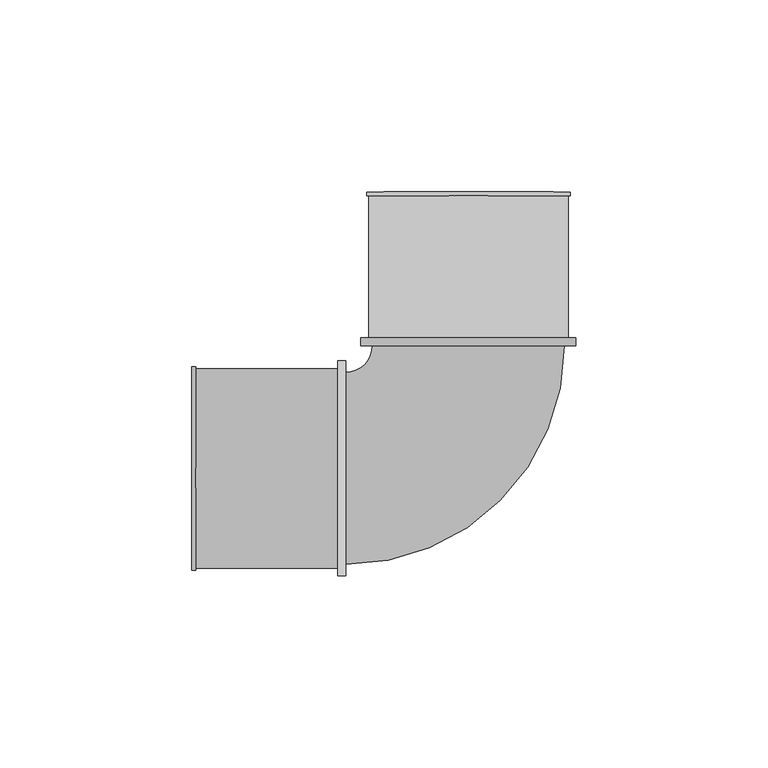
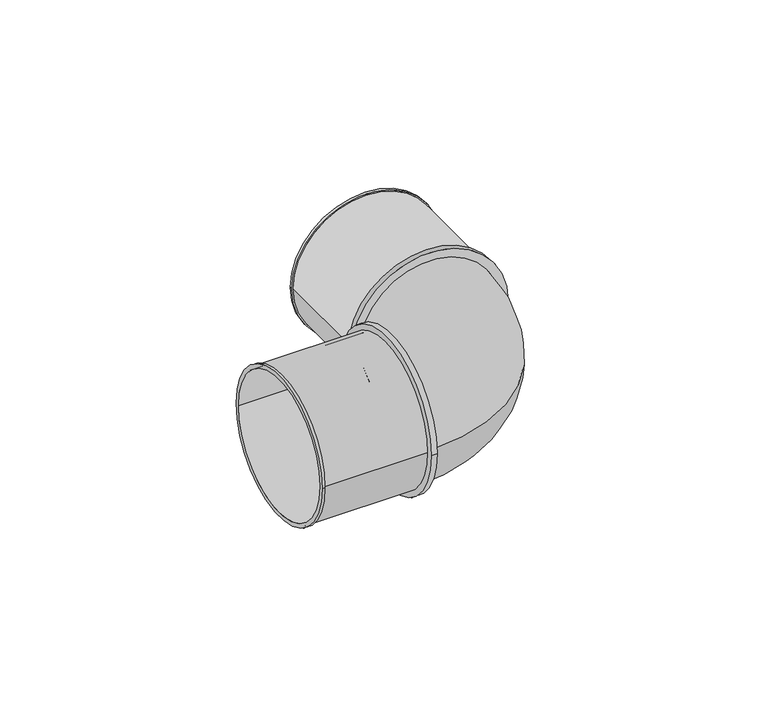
"""IFC4 building model written with IfcOpenShell, lengths in millimetres: pipe fitting geometry, SuperPipe_Elbow_SPressPlus : SuperPipe_Elbow_SPressPlus."""

import ifcopenshell
import ifcopenshell.guid

model = None  # the IFC model being written
_history = None  # IfcOwnerHistory: only IFC2X3 demands one
_inside = {}  # id of a spatial element -> (the spatial element, [elements in it])
_under = {}  # id of a project, library or spatial element -> (it, [spatial elements below it])
_declared = {}  # id of a project -> (the project, [libraries it declares])
_typed = {}  # id of a type object -> (the type object, [elements of that type])
_made_of = {}  # id of a material, layer set ... -> (it, [elements and type objects made of it])


def new_model(schema):
    """Start an empty IFC model of exactly this schema.

    Asked for "IFC4X3", IfcOpenShell would pick the latest addendum, in which some entities
    have other attributes; the version numbers below select the first issue.
    IFC2X3 requires an IfcOwnerHistory on every rooted entity: one is made here for all.
    """
    global model, _history
    if schema == "IFC4X3":
        model = ifcopenshell.file(schema_version=(4, 3, 0, 0))
    else:
        model = ifcopenshell.file(schema=schema)
    _inside.clear()
    _under.clear()
    _declared.clear()
    _typed.clear()
    _made_of.clear()
    _history = None
    if model.schema == "IFC2X3":
        org = make("IfcOrganization", Name="unknown")
        user = make(
            "IfcPersonAndOrganization",
            ThePerson=make("IfcPerson", FamilyName="unknown"),
            TheOrganization=org,
        )
        app = make(
            "IfcApplication",
            ApplicationDeveloper=org,
            Version="unknown",
            ApplicationFullName="unknown",
            ApplicationIdentifier="unknown",
        )
        _history = make(
            "IfcOwnerHistory",
            OwningUser=user,
            OwningApplication=app,
            ChangeAction="ADDED",
            CreationDate=0,
        )
    return model


def make(cls, **values):
    """One entity of the class cls with the attributes given. An attribute that is None is left unset."""
    return model.create_entity(
        cls, **{name: value for name, value in values.items() if value is not None}
    )


def rooted(cls, **values):
    """An entity with a GlobalId (a new one), such as an element, a storey or a relation."""
    return make(cls, GlobalId=ifcopenshell.guid.new(), OwnerHistory=_history, **values)


def si_unit(unit_type, name, prefix=None):
    """IfcSIUnit, for example si_unit("LENGTHUNIT", "METRE", prefix="MILLI")."""
    return make("IfcSIUnit", UnitType=unit_type, Prefix=prefix, Name=name)


def assignment(units):
    """IfcUnitAssignment: the units of a project."""
    return None if units is None else make("IfcUnitAssignment", Units=units)


def point(xyz):
    """IfcCartesianPoint."""
    return None if xyz is None else make("IfcCartesianPoint", Coordinates=xyz)


def direction(xyz):
    """IfcDirection."""
    return None if xyz is None else make("IfcDirection", DirectionRatios=xyz)


def frame(location, z_axis=None, x_axis=None):
    """IfcAxis2Placement3D, a coordinate frame: its origin and axes. An axis left out is left unset."""
    return make(
        "IfcAxis2Placement3D",
        Location=point(location),
        Axis=direction(z_axis),
        RefDirection=direction(x_axis),
    )


def frame_2d(location, x_axis=None):
    """IfcAxis2Placement2D, a coordinate frame in the plane: its origin and x axis."""
    return make(
        "IfcAxis2Placement2D", Location=point(location), RefDirection=direction(x_axis)
    )


def origin():
    """The frame at (0, 0, 0) with its axes left unset."""
    return frame((0.0, 0.0, 0.0))


def origin_2d():
    """The frame at (0, 0) in the plane with its x axis left unset."""
    return frame_2d((0.0, 0.0))


def place(relative_to, where):
    """IfcLocalPlacement: puts the frame where relative to a parent placement (None: the world)."""
    return make(
        "IfcLocalPlacement", PlacementRelTo=relative_to, RelativePlacement=where
    )


def context(
    kind, dimensions, precision=None, world=None, true_north=None, identifier=None
):
    """IfcGeometricRepresentationContext, for example the 3D "Model" context."""
    return make(
        "IfcGeometricRepresentationContext",
        ContextIdentifier=identifier,
        ContextType=kind,
        CoordinateSpaceDimension=dimensions,
        Precision=precision,
        WorldCoordinateSystem=world,
        TrueNorth=true_north,
    )


def project(units=None, contexts=None):
    """IfcProject with its units and contexts."""
    return rooted(
        "IfcProject",
        Name="project",
        RepresentationContexts=contexts,
        UnitsInContext=assignment(units),
    )


def spatial(cls, under=None, at=None, **own):
    """A site, building, storey or space (cls), placed at a placement, below another one or the project."""
    s = rooted(cls, ObjectPlacement=at, **own)
    if under is not None:
        _under.setdefault(under.id(), (under, []))[1].append(s)
    return s


def polyline(points):
    """IfcPolyline through the points."""
    return make("IfcPolyline", Points=[point(p) for p in points])


def circle_curve(where, radius):
    """IfcCircle in the frame where."""
    return make("IfcCircle", Position=where, Radius=radius)


def ellipse_curve(where, semi_axis1, semi_axis2):
    """IfcEllipse in the frame where."""
    return make(
        "IfcEllipse", Position=where, SemiAxis1=semi_axis1, SemiAxis2=semi_axis2
    )


def trimmed(basis, trim1, trim2, sense, master):
    """IfcTrimmedCurve: the piece of a basis curve between two trims."""
    return make(
        "IfcTrimmedCurve",
        BasisCurve=basis,
        Trim1=trim1,
        Trim2=trim2,
        SenseAgreement=sense,
        MasterRepresentation=master,
    )


def segment(curve, same_sense, transition):
    """IfcCompositeCurveSegment."""
    return make(
        "IfcCompositeCurveSegment",
        Transition=transition,
        SameSense=same_sense,
        ParentCurve=curve,
    )


def composite_curve(segments, self_intersect=None):
    """IfcCompositeCurve: segments joined end to end."""
    return make("IfcCompositeCurve", Segments=segments, SelfIntersect=self_intersect)


def outline(outer, holes=None, kind="AREA"):
    """IfcArbitraryClosedProfileDef: a profile drawn as a closed curve; with holes, ...WithVoids."""
    if holes is None:
        return make("IfcArbitraryClosedProfileDef", ProfileType=kind, OuterCurve=outer)
    return make(
        "IfcArbitraryProfileDefWithVoids",
        ProfileType=kind,
        OuterCurve=outer,
        InnerCurves=holes,
    )


def extrude(swept, where, along, depth):
    """IfcExtrudedAreaSolid: the profile swept, set in the frame where, extruded along a direction by depth."""
    return make(
        "IfcExtrudedAreaSolid",
        SweptArea=swept,
        Position=where,
        ExtrudedDirection=direction(along),
        Depth=depth,
    )


def shape(context_of_items, identifier, shape_type, items):
    """IfcShapeRepresentation: the items that make up one representation, for example the "Body"."""
    return make(
        "IfcShapeRepresentation",
        ContextOfItems=context_of_items,
        RepresentationIdentifier=identifier,
        RepresentationType=shape_type,
        Items=items,
    )


def source(mapping_origin, context_of_items, identifier, shape_type, items):
    """IfcRepresentationMap: a shape defined once, which mapped items show again and again."""
    return make(
        "IfcRepresentationMap",
        MappingOrigin=mapping_origin,
        MappedRepresentation=shape(context_of_items, identifier, shape_type, items),
    )


def transform(
    local_origin,
    x_axis=None,
    y_axis=None,
    z_axis=None,
    scale=None,
    scale2=None,
    scale3=None,
    uniform=True,
):
    """IfcCartesianTransformationOperator3D, or its non-uniform kind. x_axis, y_axis, z_axis: its Axis1, 2, 3."""
    if uniform:
        return make(
            "IfcCartesianTransformationOperator3D",
            Axis1=direction(x_axis),
            Axis2=direction(y_axis),
            LocalOrigin=point(local_origin),
            Scale=scale,
            Axis3=direction(z_axis),
        )
    return make(
        "IfcCartesianTransformationOperator3DnonUniform",
        Axis1=direction(x_axis),
        Axis2=direction(y_axis),
        LocalOrigin=point(local_origin),
        Scale=scale,
        Axis3=direction(z_axis),
        Scale2=scale2,
        Scale3=scale3,
    )


def mapped(mapping_source, mapping_target):
    """IfcMappedItem: shows the shape of a source again, moved by a transform."""
    return make(
        "IfcMappedItem", MappingSource=mapping_source, MappingTarget=mapping_target
    )


def made_of(thing, what):
    """Note that an element or type object is made of a material, layer set ...; save() writes the relation."""
    if what is not None:
        _made_of.setdefault(what.id(), (what, []))[1].append(thing)
    return thing


def element(
    cls,
    number,
    at=None,
    inside=None,
    cuts=None,
    type_object=None,
    material=None,
    context=None,
    identifier="Body",
    shape_type=None,
    held_by="IfcProductDefinitionShape",
    body=None,
    shapes=None,
    **own,
):
    """One element of the class cls, such as IfcWall. Its Tag is "e" and its number.

    at: its placement. inside: the storey or other place that contains it. cuts: it is an
    opening in that element (IfcRelVoidsElement). A single representation is given by context,
    identifier, shape_type and body (its items); several are given by shapes. held_by: the class
    of the entity that holds the representations. save() writes the other relations.
    """
    e = rooted(cls, Tag="e%d" % number, ObjectPlacement=at, **own)
    if body is not None:
        shapes = [shape(context, identifier, shape_type, body)]
    if shapes is not None:
        e.Representation = make(held_by, Representations=shapes)
    if inside is not None:
        _inside.setdefault(inside.id(), (inside, []))[1].append(e)
    if cuts is not None:
        rooted(
            "IfcRelVoidsElement", RelatingBuildingElement=cuts, RelatedOpeningElement=e
        )
    if type_object is not None:
        _typed.setdefault(type_object.id(), (type_object, []))[1].append(e)
    return made_of(e, material)


def aggregate(whole, parts):
    """IfcRelAggregates: a whole, such as a stair, and the parts it consists of."""
    return rooted("IfcRelAggregates", RelatingObject=whole, RelatedObjects=parts)


def save(model, path):
    """Write the relations noted so far, then the file.

    IfcRelAggregates (storeys below a building ...), IfcRelContainedInSpatialStructure (elements
    in a storey), IfcRelDefinesByType, IfcRelAssociatesMaterial and IfcRelDeclares: one each for
    every whole, place, type object, material and project.
    """
    for whole, parts in _under.values():
        aggregate(whole, parts)
    for where, things in _inside.values():
        rooted(
            "IfcRelContainedInSpatialStructure",
            RelatedElements=things,
            RelatingStructure=where,
        )
    for kind, things in _typed.values():
        rooted("IfcRelDefinesByType", RelatedObjects=things, RelatingType=kind)
    for what, things in _made_of.values():
        rooted("IfcRelAssociatesMaterial", RelatedObjects=things, RelatingMaterial=what)
    for by, libraries in _declared.values():
        rooted("IfcRelDeclares", RelatingContext=by, RelatedDefinitions=libraries)
    model.write(path)


def plane_surface(at):
    """IfcPlane: the flat surface through the origin of the frame at, square to its z axis."""
    return make("IfcPlane", Position=at)


def cylinder_surface(at, radius):
    """IfcCylindricalSurface: all points at the distance radius from the z axis of the frame at."""
    return make("IfcCylindricalSurface", Position=at, Radius=radius)


def revolved_surface(curve, axis_point, axis_direction):
    """IfcSurfaceOfRevolution: the curve turned about the line through axis_point along axis_direction."""
    return make(
        "IfcSurfaceOfRevolution",
        SweptCurve=make("IfcArbitraryOpenProfileDef", ProfileType="CURVE", Curve=curve),
        AxisPosition=make("IfcAxis1Placement", Location=point(axis_point), Axis=direction(axis_direction)),
    )


def advanced_brep(points, edges, surfaces, faces):
    """IfcAdvancedBrep: a solid bounded by faces that lie on surfaces and meet in shared edges.

    An edge is (start, end): straight between two places in points (the first is 0);
    or (start, end, curve); or (start, end, curve, False) where it runs against its curve.
    A face is (place in surfaces, loops), or (place, loops, False) where it looks against
    its surface's normal. A loop lists edges by number (the first is 1), with a minus sign
    where the edge is run from its end to its start. The first loop is the outer one.
    """
    corners = [point(p) for p in points]
    vertices = [make("IfcVertexPoint", VertexGeometry=c) for c in corners]
    made = []
    for start, end, *more in edges:
        made.append(
            make(
                "IfcEdgeCurve",
                EdgeStart=vertices[start],
                EdgeEnd=vertices[end],
                EdgeGeometry=more[0] if more else make("IfcPolyline", Points=[corners[start], corners[end]]),
                SameSense=more[1] if len(more) > 1 else True,
            )
        )
    hull = []
    for where, loops, *sense in faces:
        bounds = []
        for j, loop in enumerate(loops):
            ring = [make("IfcOrientedEdge", EdgeElement=made[abs(k) - 1], Orientation=k > 0) for k in loop]
            bounds.append(
                make(
                    "IfcFaceOuterBound" if j == 0 else "IfcFaceBound",
                    Bound=make("IfcEdgeLoop", EdgeList=ring),
                    Orientation=True,
                )
            )
        hull.append(make("IfcAdvancedFace", Bounds=bounds, FaceSurface=surfaces[where], SameSense=sense[0] if sense else True))
    return make("IfcAdvancedBrep", Outer=make("IfcClosedShell", CfsFaces=hull))


def pipe_fitting_8b6750b8(model_context):
    return source(origin(), model_context, "Body", "SolidModel", [
        extrude(outline(composite_curve([segment(trimmed(circle_curve(origin_2d(), 28.0), [point((-28.0, 0.0))], [point((28.0, 0.0))], False, "CARTESIAN"), True, "CONTINUOUS"), segment(trimmed(circle_curve(origin_2d(), 28.0), [point((28.0, 0.0))], [point((-28.0, 0.0))], False, "CARTESIAN"), True, "CONTINUOUS")], self_intersect=False), holes=[composite_curve([segment(trimmed(circle_curve(origin_2d(), 25.0), [point((-25.0, 0.0))], [point((25.0, 0.0))], True, "CARTESIAN"), True, "CONTINUOUS"), segment(trimmed(circle_curve(origin_2d(), 25.0), [point((25.0, 0.0))], [point((-25.0, 0.0))], True, "CARTESIAN"), True, "CONTINUOUS")], self_intersect=False)]), frame((-34.0, 0.0, 0.0), z_axis=(1.0, 0.0, 0.0), x_axis=(0.0, 1.0, 0.0)), (0.0, 0.0, 1.0), 2.0),
        extrude(outline(composite_curve([segment(trimmed(circle_curve(origin_2d(), 28.0), [point((0.0, 28.0))], [point((0.0, -28.0))], False, "CARTESIAN"), True, "CONTINUOUS"), segment(trimmed(circle_curve(origin_2d(), 28.0), [point((0.0, -28.0))], [point((0.0, 28.0))], False, "CARTESIAN"), True, "CONTINUOUS")], self_intersect=False), holes=[composite_curve([segment(trimmed(circle_curve(origin_2d(), 25.0), [point((0.0, -25.0))], [point((0.0, 25.0))], True, "CARTESIAN"), True, "CONTINUOUS"), segment(trimmed(circle_curve(origin_2d(), 25.0), [point((0.0, 25.0))], [point((0.0, -25.0))], True, "CARTESIAN"), True, "CONTINUOUS")], self_intersect=False)]), frame((0.0, 32.0, 0.0), z_axis=(0.0, 1.0, 0.0), x_axis=(0.0, 0.0, 1.0)), (0.0, 0.0, 1.0), 2.0),
        advanced_brep(
        [(-72.0, -26.5, 0.0), (-72.0, 26.5, 0.0), (-72.0, -25.0, 0.0), (-72.0, 25.0, 0.0), (-34.0, -26.0, 0.0), (-34.0, 26.0, 0.0), (-34.0, -25.0, 0.0), (-34.0, 25.0, 0.0), (-71.0, 26.0, 0.0), (-71.0, -26.0, 0.0), (-71.0, -26.5, 0.0), (-71.0, 26.5, 0.0)],
        [
            (0, 1, circle_curve(frame((-72.0, 0.0, 0.0), z_axis=(-1.0, 0.0, 0.0), x_axis=(0.0, 1.0, 0.0)), 26.5)),
            (1, 0, circle_curve(frame((-72.0, 0.0, 0.0), z_axis=(-1.0, 0.0, 0.0), x_axis=(0.0, 1.0, 0.0)), 26.5)),
            (2, 3, circle_curve(frame((-72.0, 0.0, 0.0), z_axis=(1.0, 0.0, 0.0), x_axis=(0.0, 1.0, 0.0)), 25.0)),
            (3, 2, circle_curve(frame((-72.0, 0.0, 0.0), z_axis=(1.0, 0.0, 0.0), x_axis=(0.0, 1.0, 0.0)), 25.0)),
            (4, 5, circle_curve(frame((-34.0, 0.0, 0.0), z_axis=(1.0, 0.0, 0.0), x_axis=(0.0, 1.0, 0.0)), 26.0)),
            (5, 4, circle_curve(frame((-34.0, 0.0, 0.0), z_axis=(1.0, 0.0, 0.0), x_axis=(0.0, 1.0, 0.0)), 26.0)),
            (6, 7, circle_curve(frame((-34.0, 0.0, 0.0), z_axis=(-1.0, 0.0, 0.0), x_axis=(0.0, 1.0, 0.0)), 25.0)),
            (7, 6, circle_curve(frame((-34.0, 0.0, 0.0), z_axis=(-1.0, 0.0, 0.0), x_axis=(0.0, 1.0, 0.0)), 25.0)),
            (2, 6),
            (7, 3),
            (5, 8),
            (8, 9, circle_curve(frame((-71.0, 0.0, 0.0), z_axis=(1.0, 0.0, 0.0), x_axis=(0.0, 1.0, 0.0)), 26.0)),
            (9, 4),
            (9, 8, circle_curve(frame((-71.0, 0.0, 0.0), z_axis=(1.0, 0.0, 0.0), x_axis=(0.0, 1.0, 0.0)), 26.0)),
            (10, 11, circle_curve(frame((-71.0, 0.0, 0.0), z_axis=(1.0, 0.0, 0.0), x_axis=(0.0, 1.0, 0.0)), 26.5)),
            (11, 10, circle_curve(frame((-71.0, 0.0, 0.0), z_axis=(1.0, 0.0, 0.0), x_axis=(0.0, 1.0, 0.0)), 26.5)),
            (0, 10),
            (11, 1),
        ],
        [
            plane_surface(frame((-72.0, 0.0, 0.0), z_axis=(-1.0, 0.0, 0.0), x_axis=(0.0, 0.0, 1.0))),
            plane_surface(frame((-34.0, 0.0, 0.0), z_axis=(1.0, 0.0, 0.0), x_axis=(0.0, 0.0, 1.0))),
            revolved_surface(polyline([(-34.0, 25.0, 0.0), (-72.0, 25.0, 0.0)]), (-72.0, 0.0, 0.0), (1.0, 0.0, 0.0)),
            cylinder_surface(frame((-72.0, 0.0, 0.0), z_axis=(-1.0, 0.0, 0.0), x_axis=(0.0, 1.0, 0.0)), 26.0),
            plane_surface(frame((-71.0, 0.0, 0.0), z_axis=(1.0, 0.0, 0.0), x_axis=(0.0, 0.0, 1.0))),
            cylinder_surface(frame((-72.0, 0.0, 0.0), z_axis=(-1.0, 0.0, 0.0), x_axis=(0.0, 1.0, 0.0)), 26.5),
        ],
        [
            (0, [[1, 2], [3, 4]]),
            (1, [[5, 6], [7, 8]]),
            (2, [[-3, 9, -8, 10]]),
            (2, [[-4, -10, -7, -9]]),
            (3, [[-6, 11, 12, 13]]),
            (3, [[-5, -13, 14, -11]]),
            (4, [[15, 16], [-12, -14]]),
            (5, [[-1, 17, -16, 18]]),
            (5, [[-2, -18, -15, -17]]),
        ],
    ),
        advanced_brep(
        [(26.0, 34.0, 0.0), (-26.0, 34.0, 0.0), (25.0, 34.0, 0.0), (-25.0, 34.0, 0.0), (26.5, 72.0, 0.0), (-26.5, 72.0, 0.0), (25.0, 72.0, 0.0), (-25.0, 72.0, 0.0), (26.0, 71.0, 0.0), (-26.0, 71.0, 0.0), (26.5, 71.0, 0.0), (-26.5, 71.0, 0.0)],
        [
            (0, 1, circle_curve(frame((0.0, 34.0, 0.0), z_axis=(0.0, -1.0, 0.0), x_axis=(-1.0, 0.0, 0.0)), 26.0)),
            (1, 0, circle_curve(frame((0.0, 34.0, 0.0), z_axis=(0.0, -1.0, 0.0), x_axis=(-1.0, 0.0, 0.0)), 26.0)),
            (2, 3, circle_curve(frame((0.0, 34.0, 0.0), z_axis=(0.0, 1.0, 0.0), x_axis=(-1.0, 0.0, 0.0)), 25.0)),
            (3, 2, circle_curve(frame((0.0, 34.0, 0.0), z_axis=(0.0, 1.0, 0.0), x_axis=(-1.0, 0.0, 0.0)), 25.0)),
            (4, 5, circle_curve(frame((0.0, 72.0, 0.0), z_axis=(0.0, 1.0, 0.0), x_axis=(-1.0, 0.0, 0.0)), 26.5)),
            (5, 4, circle_curve(frame((0.0, 72.0, 0.0), z_axis=(0.0, 1.0, 0.0), x_axis=(-1.0, 0.0, 0.0)), 26.5)),
            (6, 7, circle_curve(frame((0.0, 72.0, 0.0), z_axis=(0.0, -1.0, 0.0), x_axis=(-1.0, 0.0, 0.0)), 25.0)),
            (7, 6, circle_curve(frame((0.0, 72.0, 0.0), z_axis=(0.0, -1.0, 0.0), x_axis=(-1.0, 0.0, 0.0)), 25.0)),
            (0, 8),
            (8, 9, circle_curve(frame((0.0, 71.0, 0.0), z_axis=(0.0, -1.0, 0.0), x_axis=(-1.0, 0.0, 0.0)), 26.0)),
            (9, 1),
            (9, 8, circle_curve(frame((0.0, 71.0, 0.0), z_axis=(0.0, -1.0, 0.0), x_axis=(-1.0, 0.0, 0.0)), 26.0)),
            (2, 6),
            (7, 3),
            (10, 11, circle_curve(frame((0.0, 71.0, 0.0), z_axis=(0.0, -1.0, 0.0), x_axis=(-1.0, 0.0, 0.0)), 26.5)),
            (11, 10, circle_curve(frame((0.0, 71.0, 0.0), z_axis=(0.0, -1.0, 0.0), x_axis=(-1.0, 0.0, 0.0)), 26.5)),
            (11, 5),
            (4, 10),
        ],
        [
            plane_surface(frame((0.0, 34.0, 0.0), z_axis=(0.0, -1.0, 0.0), x_axis=(0.0, 0.0, 1.0))),
            plane_surface(frame((0.0, 72.0, 0.0), z_axis=(0.0, 1.0, 0.0), x_axis=(0.0, 0.0, 1.0))),
            cylinder_surface(frame((0.0, 34.0, 0.0), z_axis=(0.0, -1.0, 0.0), x_axis=(-1.0, 0.0, 0.0)), 26.0),
            revolved_surface(polyline([(-25.0, 72.0, 0.0), (-25.0, 34.0, 0.0)]), (0.0, 34.0, 0.0), (0.0, 1.0, 0.0)),
            plane_surface(frame((0.0, 71.0, 0.0), z_axis=(0.0, -1.0, 0.0), x_axis=(0.0, 0.0, 1.0))),
            cylinder_surface(frame((0.0, 71.0, 0.0), z_axis=(0.0, -1.0, 0.0), x_axis=(-1.0, 0.0, 0.0)), 26.5),
        ],
        [
            (0, [[1, 2], [3, 4]]),
            (1, [[5, 6], [7, 8]]),
            (2, [[-1, 9, 10, 11]]),
            (2, [[-2, -11, 12, -9]]),
            (3, [[-3, 13, -8, 14]]),
            (3, [[-4, -14, -7, -13]]),
            (4, [[15, 16], [-10, -12]]),
            (5, [[-16, 17, -5, 18]]),
            (5, [[-15, -18, -6, -17]]),
        ],
    ),
        advanced_brep(
        [(-32.0, -25.0, 0.0), (-32.0, 25.0, 0.0), (25.0, 32.0, 0.0), (-25.0, 32.0, 0.0)],
        [
            (0, 1, circle_curve(frame((-32.0, 0.0, 0.0), z_axis=(-1.0, 0.0, 0.0), x_axis=(0.0, 1.0, 0.0)), 25.0)),
            (1, 0, circle_curve(frame((-32.0, 0.0, 0.0), z_axis=(-1.0, 0.0, 0.0), x_axis=(0.0, 1.0, 0.0)), 25.0)),
            (2, 3, circle_curve(frame((0.0, 32.0, 0.0), z_axis=(0.0, 1.0, 0.0), x_axis=(-1.0, 0.0, 0.0)), 25.0)),
            (3, 2, circle_curve(frame((0.0, 32.0, 0.0), z_axis=(0.0, 1.0, 0.0), x_axis=(-1.0, 0.0, 0.0)), 25.0)),
            (3, 1, circle_curve(frame((-32.0, 32.0, 0.0), z_axis=(0.0, 0.0, -1.0), x_axis=(0.0, -1.0, 0.0)), 7.0)),
            (0, 2, circle_curve(frame((-32.0, 32.0, 0.0), z_axis=(0.0, 0.0, 1.0), x_axis=(0.0, -1.0, 0.0)), 57.0)),
        ],
        [
            plane_surface(frame((-32.0, 0.0, 0.0), z_axis=(-1.0, 0.0, 0.0), x_axis=(0.0, 0.0, 1.0))),
            plane_surface(frame((0.0, 32.0, 0.0), z_axis=(0.0, 1.0, 0.0), x_axis=(0.0, 0.0, 1.0))),
            revolved_surface(trimmed(ellipse_curve(frame((-32.0, 0.0, 0.0), z_axis=(-1.0, 0.0, 0.0), x_axis=(0.0, 1.0, 0.0)), 25.0, 25.0), [point((-32.0, -25.0, 0.0))], [point((-32.0, 25.0, 0.0))], True, "CARTESIAN"), (-32.0, 32.0, 0.0), (0.0, 0.0, 1.0)),
            revolved_surface(trimmed(ellipse_curve(frame((-32.0, 0.0, 0.0), z_axis=(-1.0, 0.0, 0.0), x_axis=(0.0, 1.0, 0.0)), 25.0, 25.0), [point((-32.0, 25.0, 0.0))], [point((-32.0, -25.0, 0.0))], True, "CARTESIAN"), (-32.0, 32.0, 0.0), (0.0, 0.0, 1.0)),
        ],
        [
            (0, [[1, 2]]),
            (1, [[3, 4]]),
            (2, [[5, -1, 6, -4]]),
            (3, [[-6, -2, -5, -3]]),
        ],
    ),
    ])


if __name__ == "__main__":
    model = new_model("IFC4")
    model_context = context("Model", 3, world=origin())
    ifc_project = project(units=[si_unit("LENGTHUNIT", "METRE", prefix="MILLI")], contexts=[model_context])
    site = spatial("IfcSite", under=ifc_project)
    building = spatial("IfcBuilding", under=site)
    placement = place(None, origin())
    pipe_fitting_shape = pipe_fitting_8b6750b8(model_context)
    element("IfcPipeFitting", 1, ObjectType="SuperPipe_Elbow_SPressPlus : SuperPipe_Elbow_SPressPlus", at=placement, inside=building, context=model_context, shape_type="MappedRepresentation", body=[
        mapped(pipe_fitting_shape, transform((0.0, 0.0, 0.0), x_axis=(1.0, 0.0, 0.0), y_axis=(0.0, 1.0, 0.0), z_axis=(0.0, 0.0, 1.0))),
    ])
    save(model, "model.ifc")
